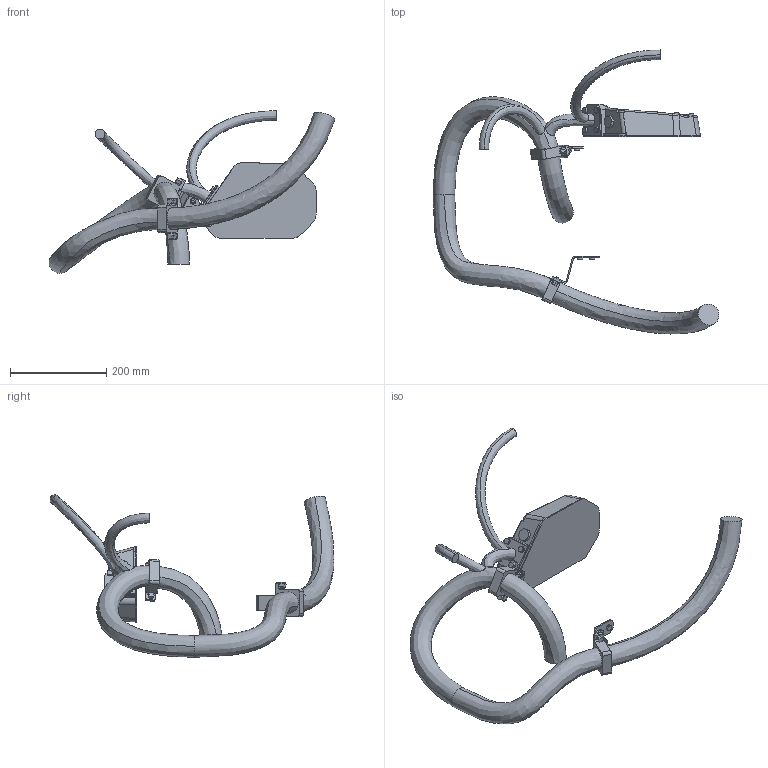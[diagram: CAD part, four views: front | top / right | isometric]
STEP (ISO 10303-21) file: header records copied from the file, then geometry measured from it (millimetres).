
FILE_DESCRIPTION (( 'STEP AP214' ), '1' );
FILE_NAME ('IRB5710-LID_70kg-270_OmniCore_rev00_LINK01m_CABLE.step', '2025-07-07T14:19:55', ( '' ), ( '' ), 'SwSTEP 2.0', 'SolidWorks 2024', '' );
FILE_SCHEMA (( 'AUTOMOTIVE_DESIGN' ));
Length unit declared in the file: millimetre
Products named in the file (1): IRB5710-LID_70kg-270_OmniCore_rev00_LINK01m_CABLE
Bounding box: 593.64 x 589.36 x 337.43 mm (x, y, z)
Volume: 4142653.2 mm3; surface area: 374572 mm2
Topology: 1 solids, 5 shells, 410 faces, 1051 edges, 691 vertices
Faces by surface type: plane 213, cylinder 111, bspline 47, cone 25, torus 14
Entity records: 25409 total; most frequent: CARTESIAN_POINT 15568, ORIENTED_EDGE 2102, DIRECTION 1839, EDGE_CURVE 1051, VERTEX_POINT 691, AXIS2_PLACEMENT_3D 631, LINE 577, VECTOR 577
